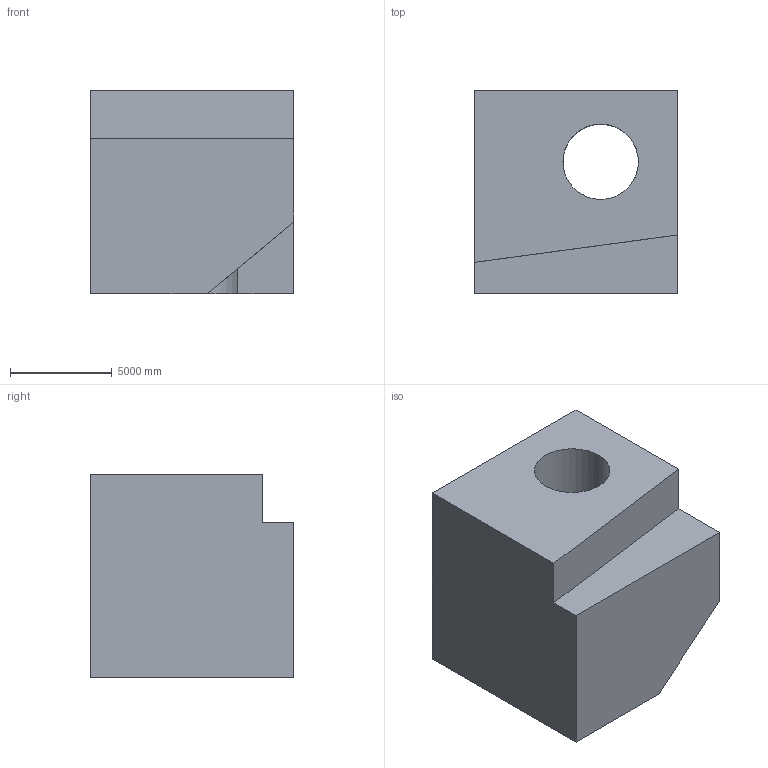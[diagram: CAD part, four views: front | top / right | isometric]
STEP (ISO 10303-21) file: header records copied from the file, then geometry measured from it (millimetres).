
FILE_DESCRIPTION (( 'STEP AP203' ), '1' );
FILE_NAME ('1288.STEP', '2022-08-18T13:34:47', ( 'user' ), ( '' ), 'SwSTEP 2.0', 'SolidWorks 2021', '' );
FILE_SCHEMA (( 'CONFIG_CONTROL_DESIGN' ));
Length unit declared in the file: centimetre
Products named in the file (1): 1288
Bounding box: 10000 x 10000 x 10000 mm (x, y, z)
Volume: 785168682378.7 mm3; surface area: 656561415.6 mm2
Topology: 1 solids, 1 shells, 12 faces, 33 edges, 22 vertices
Faces by surface type: plane 10, cylinder 2
Entity records: 462 total; most frequent: CARTESIAN_POINT 74, ORIENTED_EDGE 66, DIRECTION 61, EDGE_CURVE 33, VECTOR 27, LINE 27, VERTEX_POINT 22, AXIS2_PLACEMENT_3D 17
